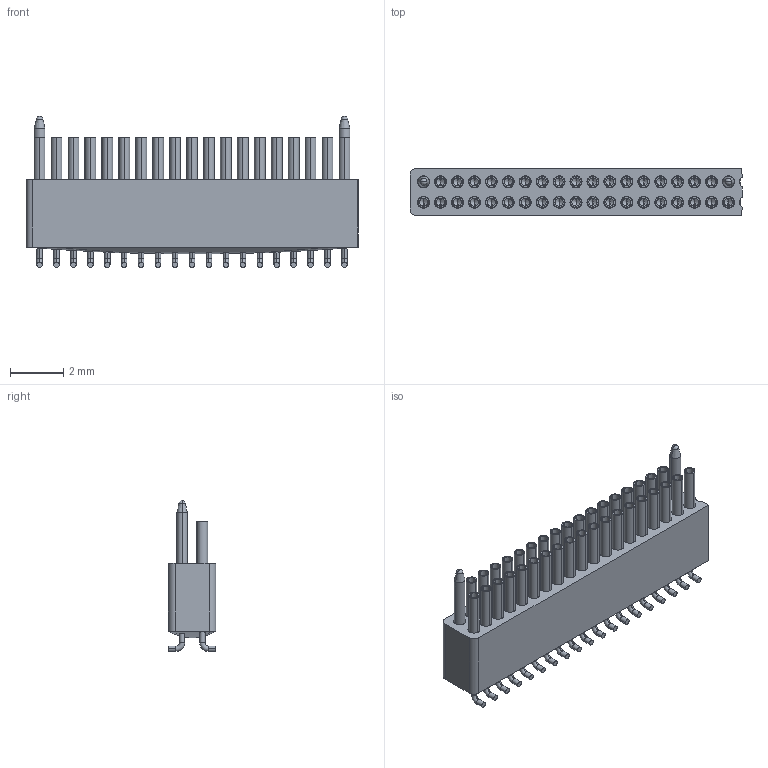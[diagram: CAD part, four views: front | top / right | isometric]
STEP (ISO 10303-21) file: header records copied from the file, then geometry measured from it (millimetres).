
FILE_DESCRIPTION (( 'STEP AP214' ), '1' );
FILE_NAME ('A79051-001 REV B.STEP', '2015-11-06T13:30:20', ( '' ), ( '' ), 'SwSTEP 2.0', 'SolidWorks 2015', '' );
FILE_SCHEMA (( 'AUTOMOTIVE_DESIGN' ));
Length unit declared in the file: inch
Products named in the file (1): A79051-001
Bounding box: 12.45 x 1.79 x 5.66 mm (x, y, z)
Volume: 56.1 mm3; surface area: 523 mm2
Topology: 1 solids, 1 shells, 733 faces, 1732 edges, 1061 vertices
Faces by surface type: cylinder 382, plane 175, torus 76, cone 76, bspline 24
Entity records: 23221 total; most frequent: CARTESIAN_POINT 6362, DIRECTION 3744, ORIENTED_EDGE 3312, EDGE_CURVE 1656, AXIS2_PLACEMENT_3D 1554, VERTEX_POINT 1061, EDGE_LOOP 869, CIRCLE 844
